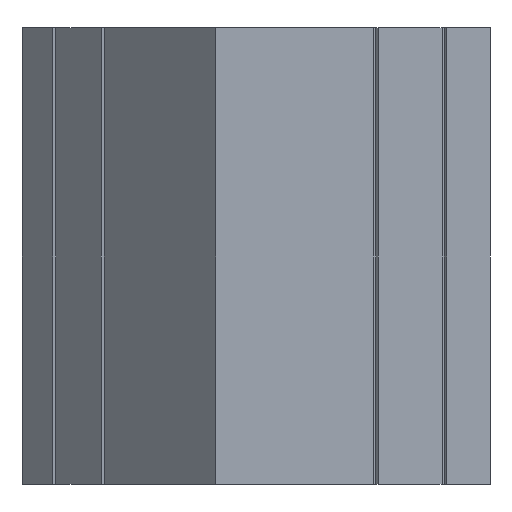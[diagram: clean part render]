
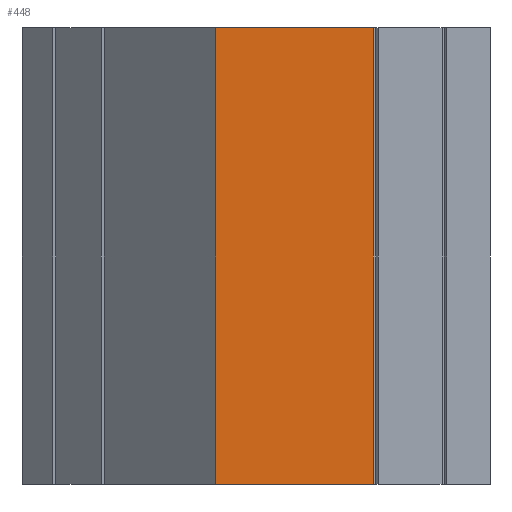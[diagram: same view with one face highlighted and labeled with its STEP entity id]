
A CAD part, front view. The second image highlights one B-rep face of the part: STEP entity #448.
In plain terms, the highlighted planar face has unit normal (0, -1, 0).
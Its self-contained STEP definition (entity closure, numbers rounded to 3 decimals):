
#75 = CARTESIAN_POINT ( 'NONE',  ( 34.5, 0., 50. ) ) ;
#113 = LINE ( 'NONE', #491, #436 ) ;
#132 = EDGE_CURVE ( 'NONE', #1092, #418, #431, .T. ) ;
#150 = VERTEX_POINT ( 'NONE', #1101 ) ;
#151 = LINE ( 'NONE', #722, #565 ) ;
#177 = CARTESIAN_POINT ( 'NONE',  ( 60., 0., 0. ) ) ;
#193 = EDGE_CURVE ( 'NONE', #150, #418, #151, .T. ) ;
#249 = ORIENTED_EDGE ( 'NONE', *, *, #1229, .T. ) ;
#278 = LINE ( 'NONE', #1124, #333 ) ;
#333 = VECTOR ( 'NONE', #1042, 1000. ) ;
#369 = DIRECTION ( 'NONE',  ( 0., -1., 0. ) ) ;
#418 = VERTEX_POINT ( 'NONE', #75 ) ;
#431 = LINE ( 'NONE', #814, #780 ) ;
#436 = VECTOR ( 'NONE', #959, 1000. ) ;
#437 = EDGE_LOOP ( 'NONE', ( #249, #880, #1126, #715 ) ) ;
#439 = DIRECTION ( 'NONE',  ( 1., 0., 0. ) ) ;
#448 = ADVANCED_FACE ( 'NONE', ( #454 ), #1129, .T. ) ;
#454 = FACE_OUTER_BOUND ( 'NONE', #437, .T. ) ;
#491 = CARTESIAN_POINT ( 'NONE',  ( 0., 0., 0. ) ) ;
#565 = VECTOR ( 'NONE', #439, 1000. ) ;
#715 = ORIENTED_EDGE ( 'NONE', *, *, #193, .F. ) ;
#722 = CARTESIAN_POINT ( 'NONE',  ( 5.513, 0., 50. ) ) ;
#741 = VERTEX_POINT ( 'NONE', #758 ) ;
#758 = CARTESIAN_POINT ( 'NONE',  ( 0., 0., -50. ) ) ;
#780 = VECTOR ( 'NONE', #888, 1000. ) ;
#814 = CARTESIAN_POINT ( 'NONE',  ( 34.5, 0., 0. ) ) ;
#880 = ORIENTED_EDGE ( 'NONE', *, *, #1031, .T. ) ;
#888 = DIRECTION ( 'NONE',  ( 0., 0., 1. ) ) ;
#925 = DIRECTION ( 'NONE',  ( 0., 0., -1. ) ) ;
#959 = DIRECTION ( 'NONE',  ( 0., 0., -1. ) ) ;
#1031 = EDGE_CURVE ( 'NONE', #741, #1092, #278, .T. ) ;
#1042 = DIRECTION ( 'NONE',  ( 1., 0., 0. ) ) ;
#1050 = CARTESIAN_POINT ( 'NONE',  ( 34.5, 0., -50. ) ) ;
#1065 = AXIS2_PLACEMENT_3D ( 'NONE', #177, #369, #925 ) ;
#1092 = VERTEX_POINT ( 'NONE', #1050 ) ;
#1101 = CARTESIAN_POINT ( 'NONE',  ( 0., 0., 50. ) ) ;
#1124 = CARTESIAN_POINT ( 'NONE',  ( 5.513, 0., -50. ) ) ;
#1126 = ORIENTED_EDGE ( 'NONE', *, *, #132, .T. ) ;
#1129 = PLANE ( 'NONE',  #1065 ) ;
#1229 = EDGE_CURVE ( 'NONE', #150, #741, #113, .T. ) ;
